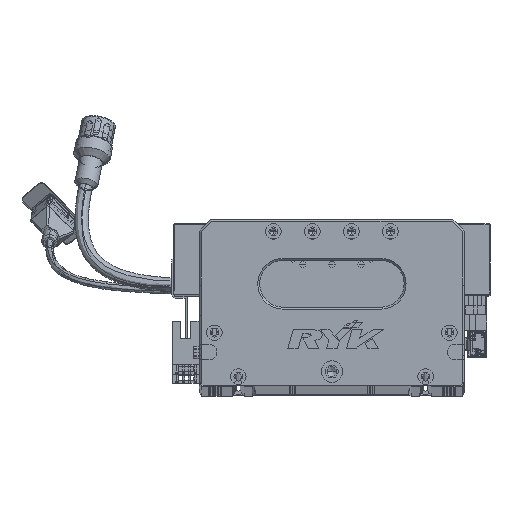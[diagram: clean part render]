
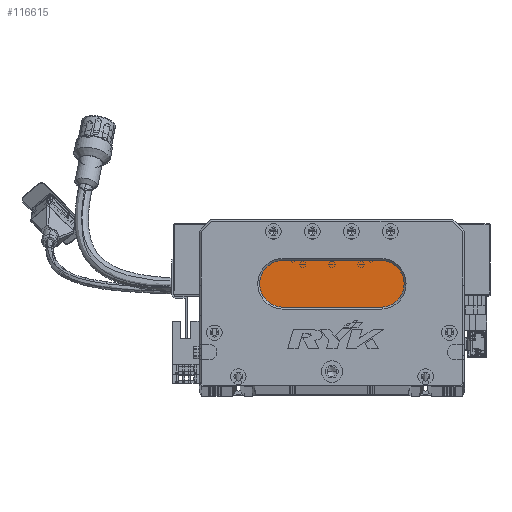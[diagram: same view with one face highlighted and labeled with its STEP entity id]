
A CAD part, top view. The second image highlights one B-rep face of the part: STEP entity #116615.
In plain terms, the highlighted planar face has unit normal (0, 0, 1) as drawn and (0, 0, -1) by its records, which use the part's own axes.
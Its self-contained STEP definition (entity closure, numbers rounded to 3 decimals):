
#921 = VERTEX_POINT ( 'NONE', #26895 ) ;
#3557 = EDGE_CURVE ( 'NONE', #40614, #69146, #9973, .T. ) ;
#5236 = DIRECTION ( 'NONE',  ( 0., 0., -1. ) ) ;
#5993 = ORIENTED_EDGE ( 'NONE', *, *, #10166, .T. ) ;
#9348 = CARTESIAN_POINT ( 'NONE',  ( 93., 40., 13. ) ) ;
#9973 = CIRCLE ( 'NONE', #19053, 12. ) ;
#10166 = EDGE_CURVE ( 'NONE', #921, #52097, #73778, .T. ) ;
#12633 = EDGE_CURVE ( 'NONE', #69146, #921, #31079, .T. ) ;
#12890 = CARTESIAN_POINT ( 'NONE',  ( 93., 52., 13. ) ) ;
#13727 = CARTESIAN_POINT ( 'NONE',  ( 93., 52., 13. ) ) ;
#17849 = AXIS2_PLACEMENT_3D ( 'NONE', #12890, #46470, #34190 ) ;
#19053 = AXIS2_PLACEMENT_3D ( 'NONE', #48692, #5236, #112814 ) ;
#19480 = CIRCLE ( 'NONE', #24537, 12. ) ;
#21046 = AXIS2_PLACEMENT_3D ( 'NONE', #13727, #130700, #98644 ) ;
#24537 = AXIS2_PLACEMENT_3D ( 'NONE', #99445, #130565, #65999 ) ;
#26895 = CARTESIAN_POINT ( 'NONE',  ( 93., 64., 13. ) ) ;
#31079 = LINE ( 'NONE', #110790, #101817 ) ;
#34190 = DIRECTION ( 'NONE',  ( -1., 0., 0. ) ) ;
#40614 = VERTEX_POINT ( 'NONE', #55719 ) ;
#46470 = DIRECTION ( 'NONE',  ( 0., 0., -1. ) ) ;
#48692 = CARTESIAN_POINT ( 'NONE',  ( 43., 52., 13. ) ) ;
#49110 = EDGE_CURVE ( 'NONE', #52097, #64480, #117829, .T. ) ;
#52097 = VERTEX_POINT ( 'NONE', #9348 ) ;
#55719 = CARTESIAN_POINT ( 'NONE',  ( 31., 52., 13. ) ) ;
#63732 = EDGE_CURVE ( 'NONE', #64480, #40614, #19480, .T. ) ;
#64480 = VERTEX_POINT ( 'NONE', #122303 ) ;
#65999 = DIRECTION ( 'NONE',  ( -1., 0., 0. ) ) ;
#69146 = VERTEX_POINT ( 'NONE', #92671 ) ;
#73778 = CIRCLE ( 'NONE', #21046, 12. ) ;
#77339 = VECTOR ( 'NONE', #79842, 1000. ) ;
#78228 = DIRECTION ( 'NONE',  ( 1., 0., 0. ) ) ;
#79842 = DIRECTION ( 'NONE',  ( -1., 0., 0. ) ) ;
#82493 = ORIENTED_EDGE ( 'NONE', *, *, #12633, .T. ) ;
#86458 = ORIENTED_EDGE ( 'NONE', *, *, #63732, .T. ) ;
#91140 = CARTESIAN_POINT ( 'NONE',  ( 93., 40., 13. ) ) ;
#92671 = CARTESIAN_POINT ( 'NONE',  ( 43., 64., 13. ) ) ;
#97084 = ORIENTED_EDGE ( 'NONE', *, *, #49110, .T. ) ;
#98644 = DIRECTION ( 'NONE',  ( -1., 0., 0. ) ) ;
#99445 = CARTESIAN_POINT ( 'NONE',  ( 43., 52., 13. ) ) ;
#99519 = FACE_OUTER_BOUND ( 'NONE', #123247, .T. ) ;
#101817 = VECTOR ( 'NONE', #78228, 1000. ) ;
#110790 = CARTESIAN_POINT ( 'NONE',  ( 93., 64., 13. ) ) ;
#112814 = DIRECTION ( 'NONE',  ( -1., 0., 0. ) ) ;
#116615 = ADVANCED_FACE ( 'NONE', ( #99519 ), #121391, .T. ) ;
#117829 = LINE ( 'NONE', #91140, #77339 ) ;
#121391 = PLANE ( 'NONE',  #17849 ) ;
#122303 = CARTESIAN_POINT ( 'NONE',  ( 43., 40., 13. ) ) ;
#123247 = EDGE_LOOP ( 'NONE', ( #5993, #97084, #86458, #139395, #82493 ) ) ;
#130565 = DIRECTION ( 'NONE',  ( 0., 0., -1. ) ) ;
#130700 = DIRECTION ( 'NONE',  ( 0., 0., -1. ) ) ;
#139395 = ORIENTED_EDGE ( 'NONE', *, *, #3557, .T. ) ;
